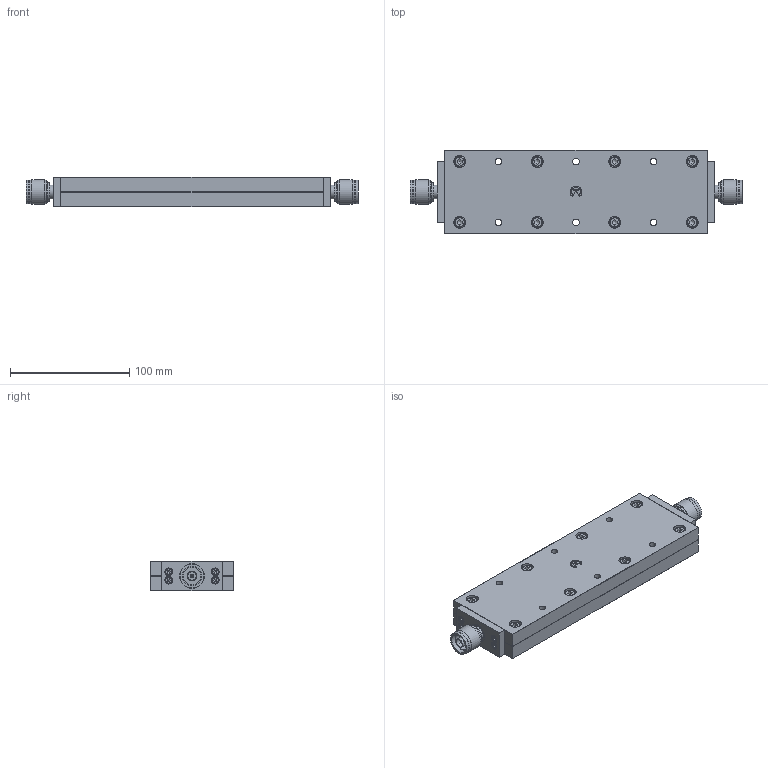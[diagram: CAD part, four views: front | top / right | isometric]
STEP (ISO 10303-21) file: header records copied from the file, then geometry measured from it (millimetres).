
FILE_DESCRIPTION(('STEP AP203'), '1');
FILE_NAME('ÏÐ1-25-500-3-NMM', '', ('UNSPECIFIED'), ('UNSPECIFIED'), 'C3D Converter', 'C3D Toolkit', '');
FILE_SCHEMA(('CONFIG_CONTROL_DESIGN'));
Length unit declared in the file: millimetre
Products named in the file (10): -01; #678
Assembly tree (22 placements, depth 2):
  (unnamed)
    (unnamed)
    (unnamed)
    (unnamed)
    (unnamed)  x4
    (unnamed)  x8
    -01
    #678  x4
    (unnamed)
    -01
Bounding box: 278.3 x 70 x 25 mm (x, y, z)
Volume: 403633.7 mm3; surface area: 103263.9 mm2
Topology: 22 solids, 22 shells, 474 faces, 1024 edges, 658 vertices
Faces by surface type: plane 262, cylinder 136, cone 42, torus 34
Full cylindrical faces by diameter (mm): 1.65 x2, 2.459 x4, 2.5 x4, 3 x16, 3.04 x2, 4.2 x8, 5 x8, 5.5 x28, 6.5 x8, 7 x2, 8.04 x2, 8.5 x8, 9 x2, 10 x8, 11.6 x2, 12.7 x2, 14.94 x2, 15.75 x2, 16 x4, 16.5 x2, 17.46 x2, 17.8 x2, 19.8 x6, 20.85 x2
Entity records: 8758 total; most frequent: CARTESIAN_POINT 1809, DIRECTION 1272, ORIENTED_EDGE 912, AXIS2_PLACEMENT_3D 535, EDGE_LOOP 532, EDGE_CURVE 456, VERTEX_POINT 372, FACE_BOUND 304
